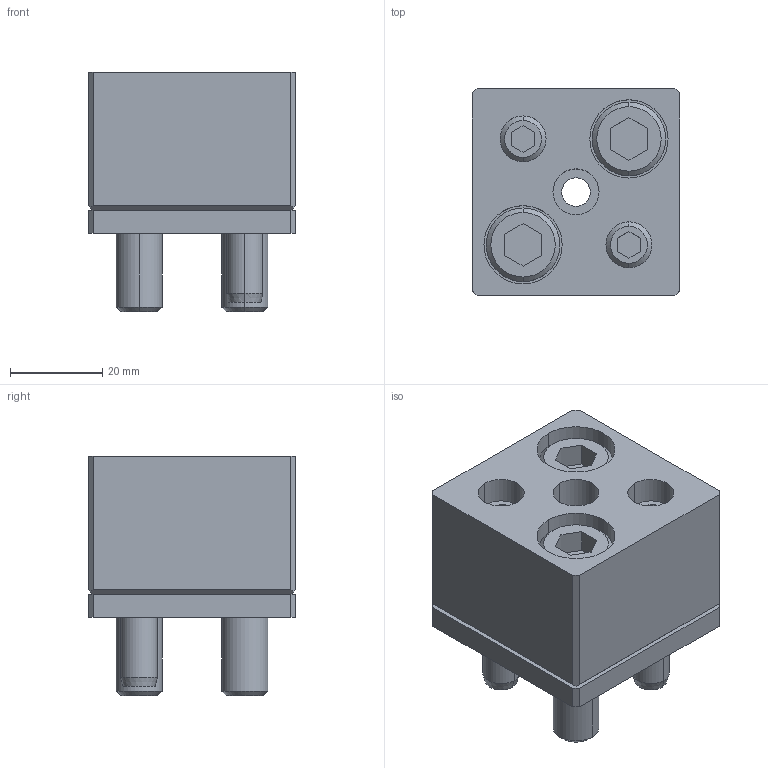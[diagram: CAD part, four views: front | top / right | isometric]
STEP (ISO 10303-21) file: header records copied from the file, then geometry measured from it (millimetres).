
FILE_DESCRIPTION(/* description */ (''),/* implementation_level */ '2;1');
FILE_NAME(/* name */ '3d_sa-fp10_03068_r00.stp',/* time_stamp */ '2011-01-10T14:11:29+09:00',/* author */ ('MISUMI'),/* organization */ (''),/* preprocessor_version */ 'ST-DEVELOPER v11',/* originating_system */ 'UGS - NX 5.0',/* authorisation */ '');
FILE_SCHEMA (('CONFIG_CONTROL_DESIGN'));
Length unit declared in the file: millimetre
Products named in the file (1): 3d_sa-fp10_03068_r00
Bounding box: 45 x 45 x 52 mm (x, y, z)
Volume: 66377.9 mm3; surface area: 26215.2 mm2
Topology: 8 solids, 8 shells, 159 faces, 362 edges, 233 vertices
Faces by surface type: plane 78, cylinder 55, cone 26
Entity records: 4622 total; most frequent: DIRECTION 814, CARTESIAN_POINT 802, ORIENTED_EDGE 724, EDGE_CURVE 362, AXIS2_PLACEMENT_3D 297, VERTEX_POINT 233, LINE 220, VECTOR 220
